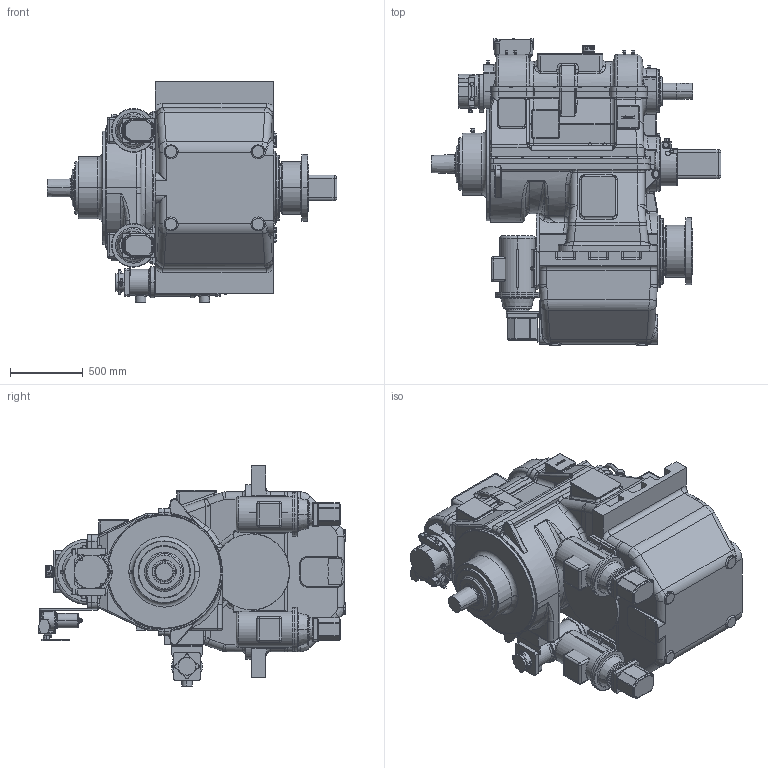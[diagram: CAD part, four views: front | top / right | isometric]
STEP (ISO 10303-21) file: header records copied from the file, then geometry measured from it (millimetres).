
FILE_DESCRIPTION((''),'2;1');
FILE_NAME('TYPE60HS_1','2025-04-11T09:41:14',('hve'),('ME Production'),'CREO PARAMETRIC BY PTC INC, 2024401','CREO PARAMETRIC BY PTC INC, 2024401','');
FILE_SCHEMA(('CONFIG_CONTROL_DESIGN'));
Products named in the file (1): TYPE60HS_1
Bounding box: 1993.03 x 2112.5 x 1513 mm (x, y, z)
Surface area: 17948732 mm2 (no closed solid volume)
Topology: 0 solids, 269 shells, 3536 faces, 9954 edges, 6498 vertices
Faces by surface type: cylinder 1271, plane 1077, bspline 443, torus 376, cone 238, sphere 110, extrusion 14, revolution 7
Entity records: 140970 total; most frequent: CARTESIAN_POINT 56312, ORIENTED_EDGE 17132, DIRECTION 16916, EDGE_CURVE 9951, AXIS2_PLACEMENT_3D 6556, VERTEX_POINT 6498, VECTOR 3797, LINE 3783
